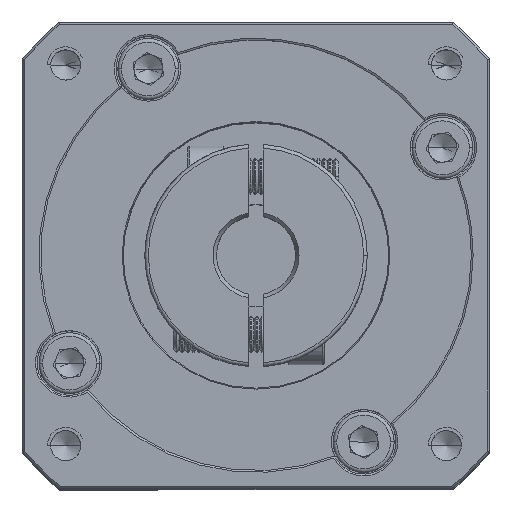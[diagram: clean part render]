
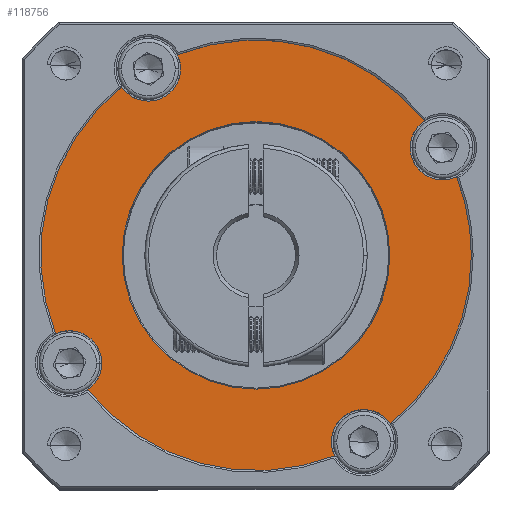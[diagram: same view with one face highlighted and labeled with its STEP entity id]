
A CAD part, top view. The second image highlights one B-rep face of the part: STEP entity #118756.
In plain terms, the highlighted planar face has unit normal (0, 0, 1).
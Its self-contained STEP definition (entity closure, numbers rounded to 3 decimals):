
#1402 = CARTESIAN_POINT ( 'NONE',  ( -14.902, 49.125, -0.205 ) ) ;
#1540 = CIRCLE ( 'NONE', #17629, 18.644 ) ;
#1839 = DIRECTION ( 'NONE',  ( 1., 0., 0. ) ) ;
#1989 = ORIENTED_EDGE ( 'NONE', *, *, #82681, .T. ) ;
#2289 = DIRECTION ( 'NONE',  ( 0., 0., -1. ) ) ;
#2763 = ORIENTED_EDGE ( 'NONE', *, *, #122979, .T. ) ;
#2845 = VERTEX_POINT ( 'NONE', #23405 ) ;
#4322 = DIRECTION ( 'NONE',  ( 1., 0., 0. ) ) ;
#4435 = AXIS2_PLACEMENT_3D ( 'NONE', #112805, #113645, #122685 ) ;
#5164 = VERTEX_POINT ( 'NONE', #122574 ) ;
#5383 = ORIENTED_EDGE ( 'NONE', *, *, #28064, .F. ) ;
#7789 = AXIS2_PLACEMENT_3D ( 'NONE', #110908, #90523, #1839 ) ;
#8139 = CARTESIAN_POINT ( 'NONE',  ( -42.834, 38.18, -0.205 ) ) ;
#8399 = AXIS2_PLACEMENT_3D ( 'NONE', #38321, #95719, #27619 ) ;
#8666 = CIRCLE ( 'NONE', #29077, 30. ) ;
#8764 = EDGE_CURVE ( 'NONE', #71181, #5164, #84735, .T. ) ;
#9484 = FACE_BOUND ( 'NONE', #84585, .T. ) ;
#12181 = DIRECTION ( 'NONE',  ( 1., 0., 0. ) ) ;
#12653 = CARTESIAN_POINT ( 'NONE',  ( -57.834, 64.161, -0.205 ) ) ;
#13476 = CARTESIAN_POINT ( 'NONE',  ( -64.315, 23.18, -0.205 ) ) ;
#14631 = DIRECTION ( 'NONE',  ( 1., 0., 0. ) ) ;
#14663 = EDGE_CURVE ( 'NONE', #29606, #37114, #90042, .T. ) ;
#17397 = ORIENTED_EDGE ( 'NONE', *, *, #116249, .T. ) ;
#17442 = AXIS2_PLACEMENT_3D ( 'NONE', #17896, #65816, #55602 ) ;
#17629 = AXIS2_PLACEMENT_3D ( 'NONE', #60539, #2289, #12181 ) ;
#17831 = ORIENTED_EDGE ( 'NONE', *, *, #70987, .T. ) ;
#17896 = CARTESIAN_POINT ( 'NONE',  ( -27.834, 12.2, -0.205 ) ) ;
#18739 = CIRCLE ( 'NONE', #32120, 4.5 ) ;
#20336 = DIRECTION ( 'NONE',  ( 1., 0., 0. ) ) ;
#21282 = CARTESIAN_POINT ( 'NONE',  ( -42.834, 38.18, -0.205 ) ) ;
#23405 = CARTESIAN_POINT ( 'NONE',  ( -61.478, 38.18, -0.205 ) ) ;
#23609 = EDGE_CURVE ( 'NONE', #95061, #116064, #95032, .T. ) ;
#26764 = CIRCLE ( 'NONE', #115287, 30. ) ;
#27013 = DIRECTION ( 'NONE',  ( 1., 0., 0. ) ) ;
#27220 = CARTESIAN_POINT ( 'NONE',  ( -19.389, 56.898, -0.205 ) ) ;
#27619 = DIRECTION ( 'NONE',  ( 1., 0., 0. ) ) ;
#27709 = DIRECTION ( 'NONE',  ( 1., 0., 0. ) ) ;
#28064 = EDGE_CURVE ( 'NONE', #72938, #54570, #18739, .T. ) ;
#29077 = AXIS2_PLACEMENT_3D ( 'NONE', #52270, #109553, #61630 ) ;
#29346 = CARTESIAN_POINT ( 'NONE',  ( -68.815, 23.18, -0.205 ) ) ;
#29606 = VERTEX_POINT ( 'NONE', #13476 ) ;
#29655 = CIRCLE ( 'NONE', #95180, 4.5 ) ;
#30021 = EDGE_CURVE ( 'NONE', #72938, #37114, #8666, .T. ) ;
#30951 = AXIS2_PLACEMENT_3D ( 'NONE', #88872, #68256, #20336 ) ;
#31710 = EDGE_CURVE ( 'NONE', #38505, #120458, #95721, .T. ) ;
#32120 = AXIS2_PLACEMENT_3D ( 'NONE', #76515, #87213, #27709 ) ;
#34506 = CIRCLE ( 'NONE', #106020, 30. ) ;
#36774 = EDGE_CURVE ( 'NONE', #113486, #75656, #26764, .T. ) ;
#37114 = VERTEX_POINT ( 'NONE', #78273 ) ;
#38321 = CARTESIAN_POINT ( 'NONE',  ( -42.834, 38.18, -0.205 ) ) ;
#38505 = VERTEX_POINT ( 'NONE', #27220 ) ;
#39727 = DIRECTION ( 'NONE',  ( 0., 0., 1. ) ) ;
#42165 = DIRECTION ( 'NONE',  ( 1., 0., 0. ) ) ;
#42503 = VERTEX_POINT ( 'NONE', #91671 ) ;
#42580 = CARTESIAN_POINT ( 'NONE',  ( -42.834, 38.18, -0.205 ) ) ;
#44211 = CARTESIAN_POINT ( 'NONE',  ( -42.834, 38.18, -0.205 ) ) ;
#45804 = CIRCLE ( 'NONE', #94543, 4.5 ) ;
#47663 = EDGE_CURVE ( 'NONE', #42503, #29606, #29655, .T. ) ;
#49124 = DIRECTION ( 'NONE',  ( 1., 0., 0. ) ) ;
#50347 = ORIENTED_EDGE ( 'NONE', *, *, #14663, .F. ) ;
#52022 = DIRECTION ( 'NONE',  ( 0., 0., -1. ) ) ;
#52270 = CARTESIAN_POINT ( 'NONE',  ( -42.834, 38.18, -0.205 ) ) ;
#52328 = DIRECTION ( 'NONE',  ( 0., 0., 1. ) ) ;
#52909 = DIRECTION ( 'NONE',  ( 0., 0., 1. ) ) ;
#53507 = CARTESIAN_POINT ( 'NONE',  ( -24.117, 14.735, -0.205 ) ) ;
#54570 = VERTEX_POINT ( 'NONE', #64089 ) ;
#55602 = DIRECTION ( 'NONE',  ( 1., 0., 0. ) ) ;
#56157 = PLANE ( 'NONE',  #101223 ) ;
#59724 = EDGE_LOOP ( 'NONE', ( #114800, #2763, #110766, #111675, #97442, #17397, #125767, #109024, #112477, #61930, #5383, #83269, #50347 ) ) ;
#60539 = CARTESIAN_POINT ( 'NONE',  ( -42.834, 38.18, -0.205 ) ) ;
#61630 = DIRECTION ( 'NONE',  ( 1., 0., 0. ) ) ;
#61930 = ORIENTED_EDGE ( 'NONE', *, *, #73819, .F. ) ;
#62294 = DIRECTION ( 'NONE',  ( 1., 0., 0. ) ) ;
#64089 = CARTESIAN_POINT ( 'NONE',  ( -53.334, 64.161, -0.205 ) ) ;
#64395 = VERTEX_POINT ( 'NONE', #101453 ) ;
#65816 = DIRECTION ( 'NONE',  ( 0., 0., 1. ) ) ;
#67837 = AXIS2_PLACEMENT_3D ( 'NONE', #42580, #52022, #42165 ) ;
#68256 = DIRECTION ( 'NONE',  ( 0., 0., 1. ) ) ;
#70036 = CIRCLE ( 'NONE', #67837, 18.644 ) ;
#70987 = EDGE_CURVE ( 'NONE', #2845, #64395, #70036, .T. ) ;
#71181 = VERTEX_POINT ( 'NONE', #114357 ) ;
#71390 = CIRCLE ( 'NONE', #8399, 30. ) ;
#72938 = VERTEX_POINT ( 'NONE', #122444 ) ;
#73507 = DIRECTION ( 'NONE',  ( 0., 0., 1. ) ) ;
#73819 = EDGE_CURVE ( 'NONE', #54570, #120458, #45804, .T. ) ;
#75656 = VERTEX_POINT ( 'NONE', #126699 ) ;
#76515 = CARTESIAN_POINT ( 'NONE',  ( -57.834, 64.161, -0.205 ) ) ;
#78273 = CARTESIAN_POINT ( 'NONE',  ( -70.766, 27.235, -0.205 ) ) ;
#78538 = DIRECTION ( 'NONE',  ( 0., 0., 1. ) ) ;
#82681 = EDGE_CURVE ( 'NONE', #64395, #2845, #1540, .T. ) ;
#83269 = ORIENTED_EDGE ( 'NONE', *, *, #30021, .T. ) ;
#83522 = CARTESIAN_POINT ( 'NONE',  ( -16.853, 53.18, -0.205 ) ) ;
#84585 = EDGE_LOOP ( 'NONE', ( #1989, #17831 ) ) ;
#84735 = CIRCLE ( 'NONE', #7789, 4.5 ) ;
#87213 = DIRECTION ( 'NONE',  ( 0., 0., 1. ) ) ;
#88674 = CARTESIAN_POINT ( 'NONE',  ( -53.779, 66.112, -0.205 ) ) ;
#88872 = CARTESIAN_POINT ( 'NONE',  ( -42.834, 38.18, -0.205 ) ) ;
#90042 = CIRCLE ( 'NONE', #4435, 4.5 ) ;
#90523 = DIRECTION ( 'NONE',  ( 0., 0., 1. ) ) ;
#91671 = CARTESIAN_POINT ( 'NONE',  ( -66.279, 19.463, -0.205 ) ) ;
#93242 = DIRECTION ( 'NONE',  ( 1., 0., 0. ) ) ;
#93817 = EDGE_CURVE ( 'NONE', #113486, #71181, #101428, .T. ) ;
#94244 = DIRECTION ( 'NONE',  ( 0., 0., 1. ) ) ;
#94299 = CIRCLE ( 'NONE', #105633, 4.5 ) ;
#94543 = AXIS2_PLACEMENT_3D ( 'NONE', #12653, #52909, #62294 ) ;
#94569 = CARTESIAN_POINT ( 'NONE',  ( -21.353, 53.18, -0.205 ) ) ;
#95032 = CIRCLE ( 'NONE', #121629, 4.5 ) ;
#95061 = VERTEX_POINT ( 'NONE', #94569 ) ;
#95180 = AXIS2_PLACEMENT_3D ( 'NONE', #29346, #78538, #49124 ) ;
#95719 = DIRECTION ( 'NONE',  ( 0., 0., 1. ) ) ;
#95721 = CIRCLE ( 'NONE', #30951, 30. ) ;
#97442 = ORIENTED_EDGE ( 'NONE', *, *, #36774, .T. ) ;
#101223 = AXIS2_PLACEMENT_3D ( 'NONE', #8139, #125439, #27013 ) ;
#101235 = FACE_OUTER_BOUND ( 'NONE', #59724, .T. ) ;
#101428 = CIRCLE ( 'NONE', #17442, 4.5 ) ;
#101453 = CARTESIAN_POINT ( 'NONE',  ( -24.19, 38.18, -0.205 ) ) ;
#103896 = CARTESIAN_POINT ( 'NONE',  ( -16.853, 53.18, -0.205 ) ) ;
#105633 = AXIS2_PLACEMENT_3D ( 'NONE', #103896, #73507, #93242 ) ;
#106020 = AXIS2_PLACEMENT_3D ( 'NONE', #21282, #39727, #108139 ) ;
#108139 = DIRECTION ( 'NONE',  ( 1., 0., 0. ) ) ;
#109024 = ORIENTED_EDGE ( 'NONE', *, *, #126742, .F. ) ;
#109553 = DIRECTION ( 'NONE',  ( 0., 0., 1. ) ) ;
#110766 = ORIENTED_EDGE ( 'NONE', *, *, #8764, .F. ) ;
#110908 = CARTESIAN_POINT ( 'NONE',  ( -27.834, 12.2, -0.205 ) ) ;
#111675 = ORIENTED_EDGE ( 'NONE', *, *, #93817, .F. ) ;
#112477 = ORIENTED_EDGE ( 'NONE', *, *, #31710, .T. ) ;
#112805 = CARTESIAN_POINT ( 'NONE',  ( -68.815, 23.18, -0.205 ) ) ;
#113486 = VERTEX_POINT ( 'NONE', #53507 ) ;
#113645 = DIRECTION ( 'NONE',  ( 0., 0., 1. ) ) ;
#114357 = CARTESIAN_POINT ( 'NONE',  ( -32.334, 12.2, -0.205 ) ) ;
#114800 = ORIENTED_EDGE ( 'NONE', *, *, #47663, .F. ) ;
#115287 = AXIS2_PLACEMENT_3D ( 'NONE', #44211, #52328, #14631 ) ;
#116064 = VERTEX_POINT ( 'NONE', #1402 ) ;
#116249 = EDGE_CURVE ( 'NONE', #75656, #116064, #71390, .T. ) ;
#118756 = ADVANCED_FACE ( 'NONE', ( #9484, #101235 ), #56157, .T. ) ;
#120458 = VERTEX_POINT ( 'NONE', #88674 ) ;
#121629 = AXIS2_PLACEMENT_3D ( 'NONE', #83522, #94244, #4322 ) ;
#122444 = CARTESIAN_POINT ( 'NONE',  ( -61.551, 61.625, -0.205 ) ) ;
#122574 = CARTESIAN_POINT ( 'NONE',  ( -31.889, 10.248, -0.205 ) ) ;
#122685 = DIRECTION ( 'NONE',  ( 1., 0., 0. ) ) ;
#122979 = EDGE_CURVE ( 'NONE', #42503, #5164, #34506, .T. ) ;
#125439 = DIRECTION ( 'NONE',  ( 0., 0., 1. ) ) ;
#125767 = ORIENTED_EDGE ( 'NONE', *, *, #23609, .F. ) ;
#126699 = CARTESIAN_POINT ( 'NONE',  ( -12.834, 38.18, -0.205 ) ) ;
#126742 = EDGE_CURVE ( 'NONE', #38505, #95061, #94299, .T. ) ;
